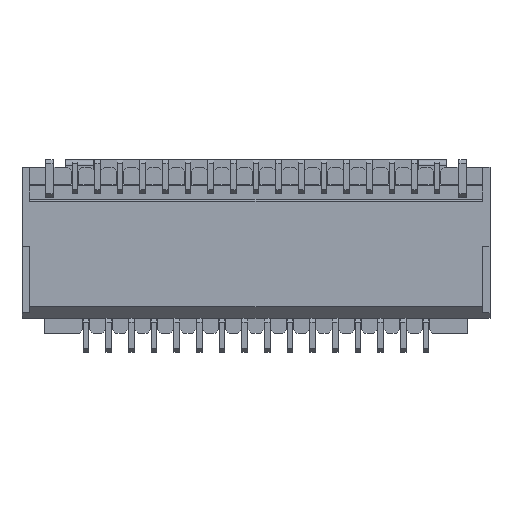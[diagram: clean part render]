
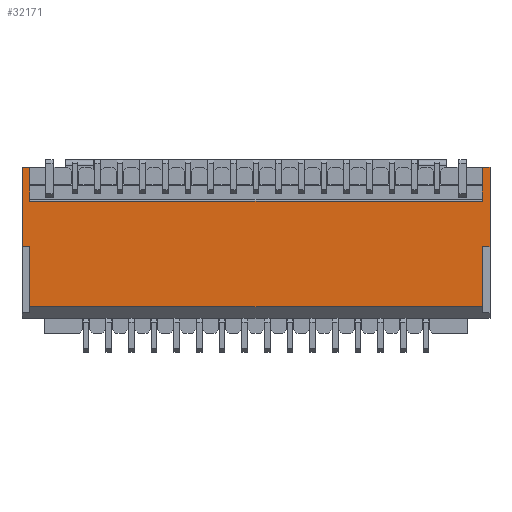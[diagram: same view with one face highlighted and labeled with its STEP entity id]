
A CAD part, front view. The second image highlights one B-rep face of the part: STEP entity #32171.
In plain terms, the highlighted planar face has unit normal (0, -1, 0).
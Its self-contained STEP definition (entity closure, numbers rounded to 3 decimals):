
#4548=DIRECTION('',(0.,0.,1.));
#4549=VECTOR('',#4548,2.1);
#4550=CARTESIAN_POINT('',(6.2,0.,2.3));
#4551=LINE('',#4550,#4549);
#4597=DIRECTION('',(0.,0.,1.));
#4598=VECTOR('',#4597,1.6);
#4599=CARTESIAN_POINT('',(-6.,0.,0.7));
#4600=LINE('',#4599,#4598);
#4601=DIRECTION('',(1.,0.,0.));
#4602=VECTOR('',#4601,0.2);
#4603=CARTESIAN_POINT('',(-6.2,0.,2.3));
#4604=LINE('',#4603,#4602);
#4605=DIRECTION('',(0.,0.,1.));
#4606=VECTOR('',#4605,2.1);
#4607=CARTESIAN_POINT('',(-6.2,0.,2.3));
#4608=LINE('',#4607,#4606);
#4609=DIRECTION('',(0.,0.,-1.));
#4610=VECTOR('',#4609,0.9);
#4611=CARTESIAN_POINT('',(-6.,0.,4.4));
#4612=LINE('',#4611,#4610);
#4613=DIRECTION('',(1.,0.,0.));
#4614=VECTOR('',#4613,12.);
#4615=CARTESIAN_POINT('',(-6.,0.,3.5));
#4616=LINE('',#4615,#4614);
#4617=DIRECTION('',(0.,0.,-1.));
#4618=VECTOR('',#4617,0.9);
#4619=CARTESIAN_POINT('',(6.,0.,4.4));
#4620=LINE('',#4619,#4618);
#4621=DIRECTION('',(-1.,0.,0.));
#4622=VECTOR('',#4621,0.2);
#4623=CARTESIAN_POINT('',(6.2,0.,2.3));
#4624=LINE('',#4623,#4622);
#4625=DIRECTION('',(0.,0.,1.));
#4626=VECTOR('',#4625,1.6);
#4627=CARTESIAN_POINT('',(6.,0.,0.7));
#4628=LINE('',#4627,#4626);
#4629=DIRECTION('',(1.,0.,0.));
#4630=VECTOR('',#4629,12.);
#4631=CARTESIAN_POINT('',(-6.,0.,0.7));
#4632=LINE('',#4631,#4630);
#12771=DIRECTION('',(1.,0.,0.));
#12772=VECTOR('',#12771,0.2);
#12773=CARTESIAN_POINT('',(6.,0.,4.4));
#12774=LINE('',#12773,#12772);
#12927=DIRECTION('',(1.,0.,0.));
#12928=VECTOR('',#12927,0.2);
#12929=CARTESIAN_POINT('',(-6.2,0.,4.4));
#12930=LINE('',#12929,#12928);
#20259=CARTESIAN_POINT('',(6.,0.,4.4));
#20261=VERTEX_POINT('',#20259);
#20263=CARTESIAN_POINT('',(-6.,0.,4.4));
#20265=VERTEX_POINT('',#20263);
#20267=CARTESIAN_POINT('',(6.,0.,3.5));
#20268=VERTEX_POINT('',#20267);
#20269=CARTESIAN_POINT('',(-6.,0.,3.5));
#20270=VERTEX_POINT('',#20269);
#20271=CARTESIAN_POINT('',(-6.2,0.,4.4));
#20272=VERTEX_POINT('',#20271);
#20273=CARTESIAN_POINT('',(6.2,0.,4.4));
#20274=VERTEX_POINT('',#20273);
#20941=CARTESIAN_POINT('',(-6.,0.,0.7));
#20942=CARTESIAN_POINT('',(-6.,0.,2.3));
#20943=VERTEX_POINT('',#20941);
#20944=VERTEX_POINT('',#20942);
#20945=CARTESIAN_POINT('',(-6.2,0.,2.3));
#20946=VERTEX_POINT('',#20945);
#20947=CARTESIAN_POINT('',(6.2,0.,2.3));
#20948=CARTESIAN_POINT('',(6.,0.,2.3));
#20949=VERTEX_POINT('',#20947);
#20950=VERTEX_POINT('',#20948);
#20951=CARTESIAN_POINT('',(6.,0.,0.7));
#20952=VERTEX_POINT('',#20951);
#32143=CARTESIAN_POINT('',(-6.2,0.,0.));
#32144=DIRECTION('',(0.,-1.,0.));
#32145=DIRECTION('',(1.,0.,0.));
#32146=AXIS2_PLACEMENT_3D('',#32143,#32144,#32145);
#32147=PLANE('',#32146);
#32149=ORIENTED_EDGE('',*,*,#32148,.T.);
#32151=ORIENTED_EDGE('',*,*,#32150,.F.);
#32153=ORIENTED_EDGE('',*,*,#32152,.T.);
#32155=ORIENTED_EDGE('',*,*,#32154,.T.);
#32157=ORIENTED_EDGE('',*,*,#32156,.T.);
#32159=ORIENTED_EDGE('',*,*,#32158,.T.);
#32161=ORIENTED_EDGE('',*,*,#32160,.F.);
#32163=ORIENTED_EDGE('',*,*,#32162,.T.);
#32164=ORIENTED_EDGE('',*,*,#32083,.F.);
#32166=ORIENTED_EDGE('',*,*,#32165,.T.);
#32167=ORIENTED_EDGE('',*,*,#32134,.F.);
#32168=ORIENTED_EDGE('',*,*,#28167,.F.);
#32169=EDGE_LOOP('',(#32149,#32151,#32153,#32155,#32157,#32159,#32161,#32163,
#32164,#32166,#32167,#32168));
#32170=FACE_OUTER_BOUND('',#32169,.F.);
#32171=ADVANCED_FACE('',(#32170),#32147,.T.);
#28167=EDGE_CURVE('',#20943,#20952,#4632,.T.);
#32083=EDGE_CURVE('',#20949,#20274,#4551,.T.);
#32134=EDGE_CURVE('',#20952,#20950,#4628,.T.);
#32148=EDGE_CURVE('',#20943,#20944,#4600,.T.);
#32150=EDGE_CURVE('',#20946,#20944,#4604,.T.);
#32152=EDGE_CURVE('',#20946,#20272,#4608,.T.);
#32154=EDGE_CURVE('',#20272,#20265,#12930,.T.);
#32156=EDGE_CURVE('',#20265,#20270,#4612,.T.);
#32158=EDGE_CURVE('',#20270,#20268,#4616,.T.);
#32160=EDGE_CURVE('',#20261,#20268,#4620,.T.);
#32162=EDGE_CURVE('',#20261,#20274,#12774,.T.);
#32165=EDGE_CURVE('',#20949,#20950,#4624,.T.);
